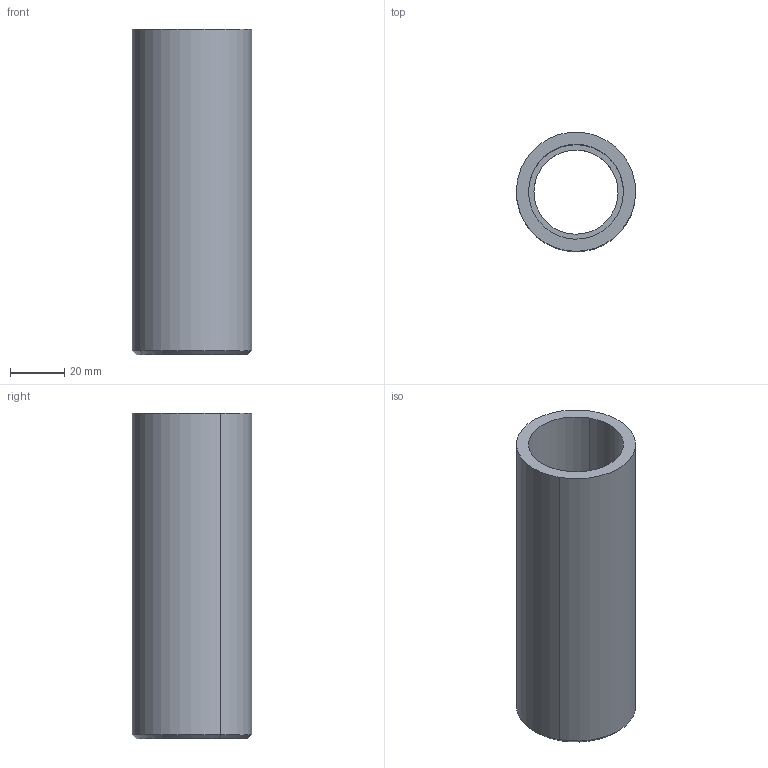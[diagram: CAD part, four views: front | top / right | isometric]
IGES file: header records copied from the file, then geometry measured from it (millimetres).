
Start section: START RECORD GO HERE.
Global section: file name: R8_LoadTube.igs; native system: IBM CATIA IGES - CATIA Version 5 Release 18 ; preprocessor: CATIA Version 5 Release 18 ; author: Barry; organization: win764bit; date: 20170723.073402; units: millimetre
Bounding box: 43.99 x 43.99 x 120 mm (x, y, z)
Surface area: 30913 mm2 (no closed solid volume)
Topology: 0 solids, 0 shells, 11 faces, 44 edges, 44 vertices
Faces by surface type: revolution 8, plane 3
